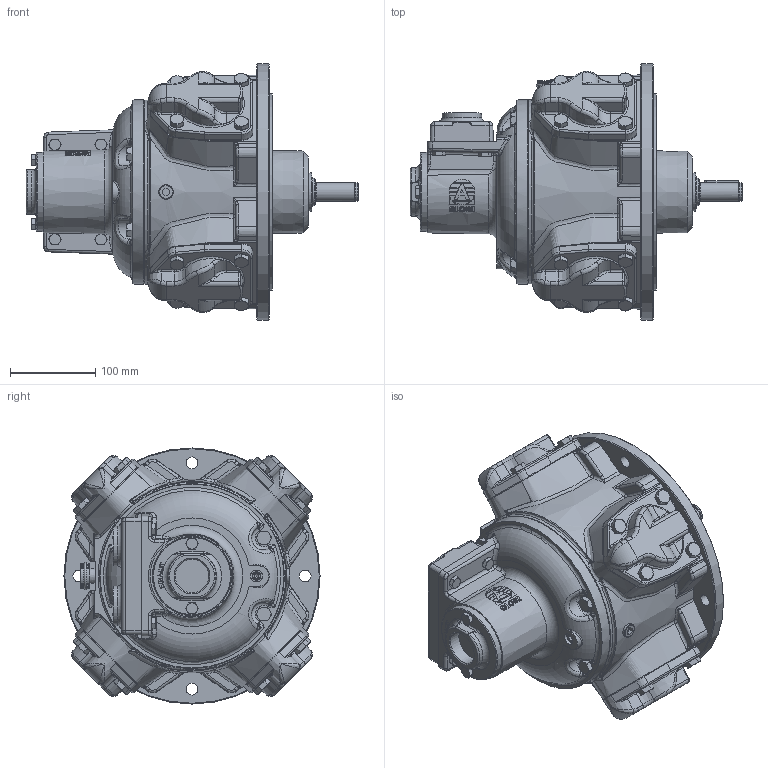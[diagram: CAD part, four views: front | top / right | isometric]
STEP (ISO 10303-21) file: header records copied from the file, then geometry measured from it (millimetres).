
FILE_DESCRIPTION (( 'STEP AP214' ), '1' );
FILE_NAME ('RM310 Defeature + Logo.STEP', '2023-05-17T13:22:27', ( '' ), ( '' ), 'SwSTEP 2.0', 'SolidWorks 2022', '' );
FILE_SCHEMA (( 'AUTOMOTIVE_DESIGN' ));
Length unit declared in the file: millimetre
Products named in the file (1): RM310 Defeature + Logo
Bounding box: 388.95 x 300 x 300 mm (x, y, z)
Volume: 10956516 mm3; surface area: 416941.3 mm2
Topology: 1 solids, 1 shells, 2214 faces, 5483 edges, 3319 vertices
Faces by surface type: plane 919, bspline 490, cylinder 343, cone 337, torus 116, sphere 9
Full cylindrical faces by diameter (mm): 1.9 x2, 9 x1, 9.728 x2, 10.5 x1, 13 x6, 14 x6, 16 x20, 19.5 x8, 21 x8, 22 x1, 30.5 x2, 32.05 x1, 39.5 x1, 45 x1, 46.94 x1, 47.04 x1, 62.69 x1, 215.9 x1, 229.965 x1, 300 x1
Entity records: 108042 total; most frequent: CARTESIAN_POINT 61109, ORIENTED_EDGE 10482, DIRECTION 8493, EDGE_CURVE 5241, VERTEX_POINT 3255, AXIS2_PLACEMENT_3D 3219, EDGE_LOOP 2450, FACE_OUTER_BOUND 2290
